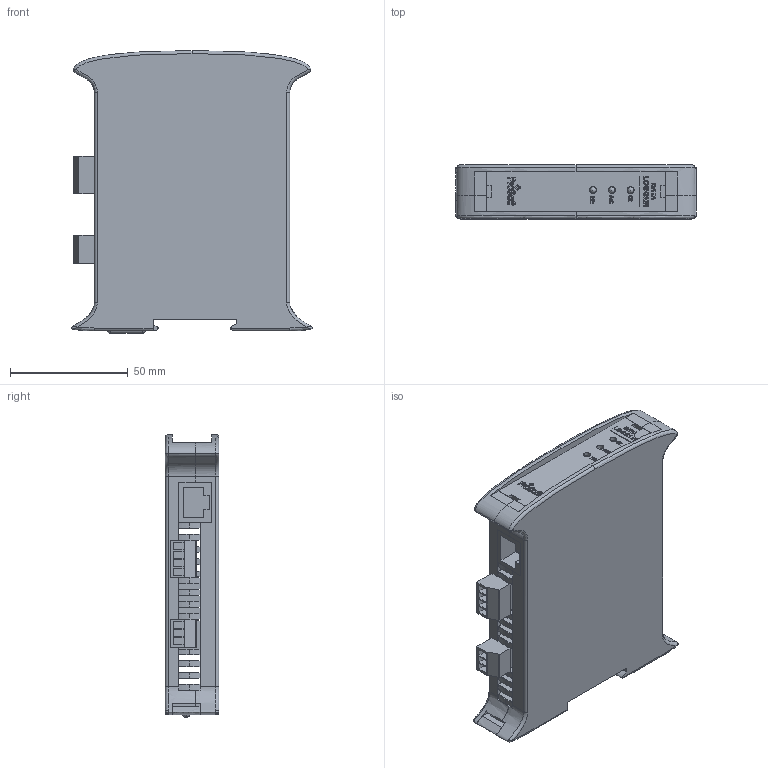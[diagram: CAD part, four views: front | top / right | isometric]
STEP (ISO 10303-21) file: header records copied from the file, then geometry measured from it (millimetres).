
FILE_DESCRIPTION (( 'STEP AP214' ), '1' );
FILE_NAME ('D129-003 PLX51-DL232 R 1.0.STEP', '2019-10-08T16:59:25', ( '' ), ( '' ), 'SwSTEP 2.0', 'SolidWorks 2015', '' );
FILE_SCHEMA (( 'AUTOMOTIVE_DESIGN' ));
Length unit declared in the file: millimetre
Products named in the file (11): D129-003 PLX51-DL232 R 1.0; Light_1; clip_1; plugs_4; plugs_1; dipswitch_1; ethernetport_1; Part1_1; enclosure_1; enclosure_bottom; faceplate_Data Logger
Assembly tree (36 placements, depth 2):
  D129-003 PLX51-DL232 R 1.0
    faceplate_Data Logger
    enclosure_bottom
    enclosure_1
    Part1_1  x25
    ethernetport_1
    dipswitch_1
    plugs_1
    plugs_4
    clip_1
    Light_1  x3
Bounding box: 102.12 x 22.8 x 120 mm (x, y, z)
Volume: 82032.3 mm3; surface area: 63875.6 mm2
Topology: 67 solids, 67 shells, 1231 faces, 3015 edges, 1966 vertices
Faces by surface type: plane 1017, bspline 127, cylinder 80, torus 4, sphere 3
Entity records: 40928 total; most frequent: CARTESIAN_POINT 17446, ORIENTED_EDGE 3436, DIRECTION 2654, EDGE_CURVE 1718, VECTOR 1392, LINE 1392, VERTEX_POINT 1136, EDGE_LOOP 736
